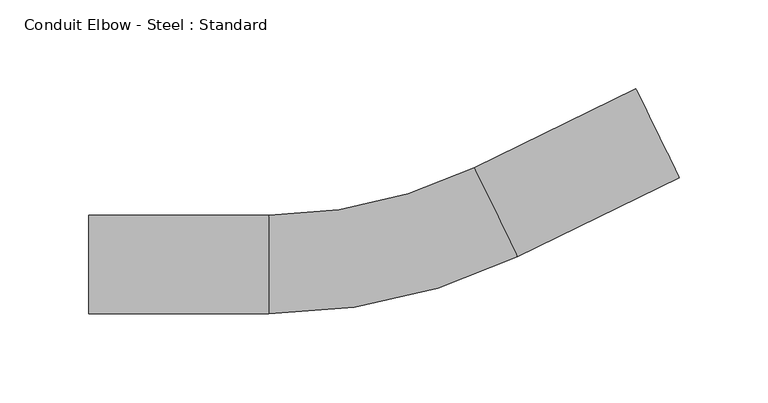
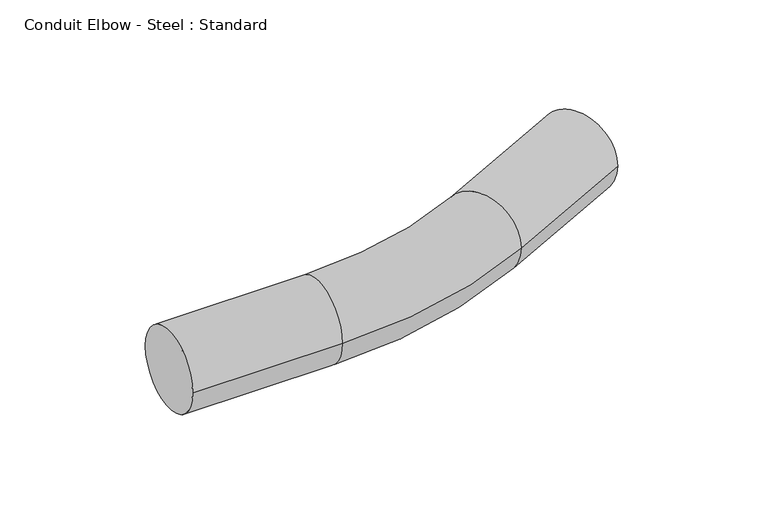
"""IFC4 building model written with IfcOpenShell, lengths in millimetres: cable carrier fitting geometry, Conduit Elbow - Steel : Standard."""

from ifc_helpers import new_model, si_unit, point, frame, origin, place, context, project, spatial, circle_curve, ellipse_curve, trimmed, source, transform, mapped, element, save
from ifc_brep_helpers import plane_surface, cylinder_surface, revolved_surface, advanced_brep


def conduit_elbow_steel_standard_458d5d39(model_context):
    return source(origin(), model_context, "Body", "AdvancedBrep", [
        advanced_brep(
        [(-169.0365986, -27.9019, 0.0), (-169.0365986, 27.9019, 0.0), (-67.4365986, -27.9019, 0.0), (-67.4365986, 27.9019, 0.0), (48.3802254, 54.6403207, 0.0), (72.8430012, 4.4841975, 0.0), (164.1604764, 49.022706, 0.0), (139.6977006, 99.1788292, 0.0)],
        [
            (0, 1, circle_curve(frame((-169.0365986, 0.0, 0.0), z_axis=(-1.0, 0.0, 0.0), x_axis=(0.0, 1.0, 0.0)), 27.9019)),
            (1, 0, circle_curve(frame((-169.0365986, 0.0, 0.0), z_axis=(-1.0, 0.0, 0.0), x_axis=(0.0, 1.0, 0.0)), 27.9019)),
            (0, 2),
            (2, 3, circle_curve(frame((-67.4365986, 0.0, 0.0), z_axis=(-1.0, 0.0, 0.0), x_axis=(0.0, 1.0, 0.0)), 27.9019)),
            (3, 1),
            (3, 2, circle_curve(frame((-67.4365986, 0.0, 0.0), z_axis=(-1.0, 0.0, 0.0), x_axis=(0.0, 1.0, 0.0)), 27.9019)),
            (4, 3, circle_curve(frame((-67.4365986, 292.1, 0.0), z_axis=(0.0, 0.0, -1.0), x_axis=(0.0, -1.0, 0.0)), 264.1981)),
            (2, 5, circle_curve(frame((-67.4365986, 292.1, 0.0), z_axis=(0.0, 0.0, 1.0), x_axis=(0.0, -1.0, 0.0)), 320.0019)),
            (5, 4, circle_curve(frame((60.6116133, 29.5622591, 0.0), z_axis=(-0.8987940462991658, -0.4383711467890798, 0.0), x_axis=(-0.4383711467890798, 0.8987940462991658, 0.0)), 27.9019)),
            (4, 5, circle_curve(frame((60.6116133, 29.5622591, 0.0), z_axis=(-0.8987940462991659, -0.43837114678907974, 0.0), x_axis=(-0.43837114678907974, 0.8987940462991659, 0.0)), 27.9019)),
            (6, 7, circle_curve(frame((151.9290885, 74.1007676, 0.0), z_axis=(0.8987940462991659, 0.4383711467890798, 0.0), x_axis=(-0.4383711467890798, 0.8987940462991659, 0.0)), 27.9019)),
            (7, 6, circle_curve(frame((151.9290885, 74.1007676, 0.0), z_axis=(0.8987940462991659, 0.4383711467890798, 0.0), x_axis=(-0.4383711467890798, 0.8987940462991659, 0.0)), 27.9019)),
            (5, 6),
            (7, 4),
        ],
        [
            plane_surface(frame((-169.0365986, 0.0, 0.0), z_axis=(-1.0, 0.0, 0.0), x_axis=(0.0, 0.0, 1.0))),
            cylinder_surface(frame((-169.0365986, 0.0, 0.0), z_axis=(-1.0, 0.0, 0.0), x_axis=(0.0, 1.0, 0.0)), 27.9019),
            revolved_surface(trimmed(ellipse_curve(frame((-67.4365986, 0.0, 0.0), z_axis=(-1.0, 0.0, 0.0), x_axis=(0.0, 1.0, 0.0)), 27.9019, 27.9019), [point((-67.4365986, -27.9019, 0.0))], [point((-67.4365986, 27.9019, 0.0))], True, "CARTESIAN"), (-67.4365986, 292.1, 0.0), (0.0, 0.0, 1.0)),
            revolved_surface(trimmed(ellipse_curve(frame((-67.4365986, 0.0, 0.0), z_axis=(-1.0, 0.0, 0.0), x_axis=(0.0, 1.0, 0.0)), 27.9019, 27.9019), [point((-67.4365986, 27.9019, 0.0))], [point((-67.4365986, -27.9019, 0.0))], True, "CARTESIAN"), (-67.4365986, 292.1, 0.0), (0.0, 0.0, 1.0)),
            plane_surface(frame((151.9290885, 74.1007676, 0.0), z_axis=(0.8987940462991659, 0.4383711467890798, 0.0), x_axis=(0.0, 0.0, 1.0))),
            cylinder_surface(frame((60.6116133, 29.5622591, 0.0), z_axis=(-0.8987940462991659, -0.4383711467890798, 0.0), x_axis=(-0.4383711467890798, 0.8987940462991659, 0.0)), 27.9019),
        ],
        [
            (0, [[1, 2]]),
            (1, [[-1, 3, 4, 5]]),
            (1, [[-2, -5, 6, -3]]),
            (2, [[7, -4, 8, 9]]),
            (3, [[-8, -6, -7, 10]]),
            (4, [[11, 12]]),
            (5, [[-9, 13, -12, 14]]),
            (5, [[-10, -14, -11, -13]]),
        ],
    ),
    ])


if __name__ == "__main__":
    model = new_model("IFC4")
    model_context = context("Model", 3, world=origin())
    ifc_project = project(units=[si_unit("LENGTHUNIT", "METRE", prefix="MILLI")], contexts=[model_context])
    site = spatial("IfcSite", under=ifc_project)
    building = spatial("IfcBuilding", under=site)
    placement = place(None, origin())
    conduit_elbow_steel_standard_shape = conduit_elbow_steel_standard_458d5d39(model_context)
    element("IfcCableCarrierFitting", 1, ObjectType="Conduit Elbow - Steel : Standard", at=placement, inside=building, context=model_context, shape_type="MappedRepresentation", body=[
        mapped(conduit_elbow_steel_standard_shape, transform((0.0, 0.0, 0.0), x_axis=(1.0, 0.0, 0.0), y_axis=(0.0, 1.0, 0.0), z_axis=(0.0, 0.0, 1.0))),
    ])
    save(model, "model.ifc")
